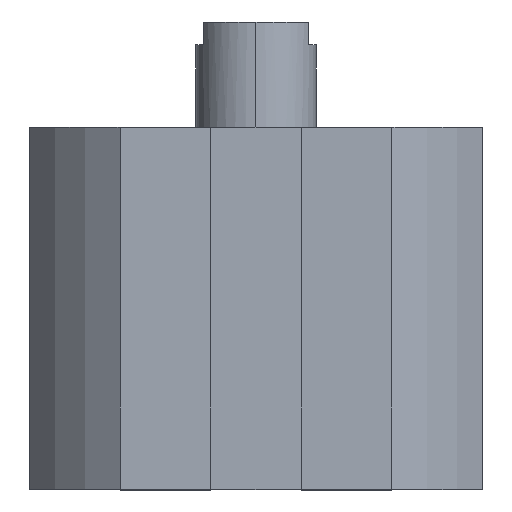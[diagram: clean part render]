
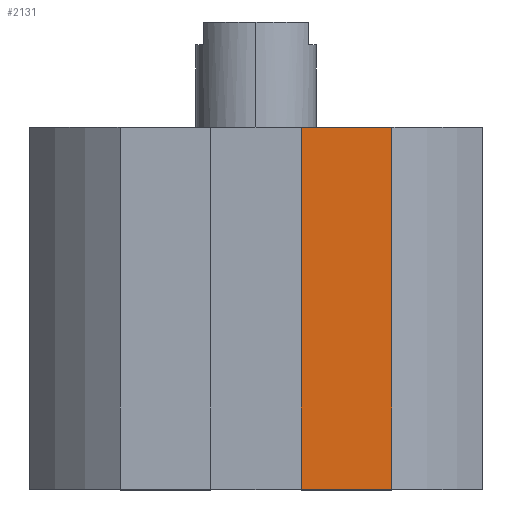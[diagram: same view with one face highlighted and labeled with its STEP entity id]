
A CAD part, top view. The second image highlights one B-rep face of the part: STEP entity #2131.
In plain terms, the highlighted planar face has unit normal (0, 0, 1).
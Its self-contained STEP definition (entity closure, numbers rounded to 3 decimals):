
#69 = FACE_OUTER_BOUND ( 'NONE', #1562, .T. ) ;
#94 = LINE ( 'NONE', #2686, #1351 ) ;
#142 = VERTEX_POINT ( 'NONE', #642 ) ;
#167 = VECTOR ( 'NONE', #1466, 1000. ) ;
#256 = LINE ( 'NONE', #2755, #167 ) ;
#383 = VECTOR ( 'NONE', #1581, 1000. ) ;
#444 = EDGE_CURVE ( 'NONE', #2402, #142, #675, .T. ) ;
#642 = CARTESIAN_POINT ( 'NONE',  ( 18.028, 0., 30. ) ) ;
#675 = LINE ( 'NONE', #2492, #3091 ) ;
#680 = DIRECTION ( 'NONE',  ( 1., 0., 0. ) ) ;
#696 = CARTESIAN_POINT ( 'NONE',  ( 18.028, -48., 30. ) ) ;
#1061 = CARTESIAN_POINT ( 'NONE',  ( 18.028, -48., 30. ) ) ;
#1128 = DIRECTION ( 'NONE',  ( 1., 0., 0. ) ) ;
#1142 = EDGE_CURVE ( 'NONE', #2058, #142, #3158, .T. ) ;
#1203 = ORIENTED_EDGE ( 'NONE', *, *, #1142, .T. ) ;
#1259 = ORIENTED_EDGE ( 'NONE', *, *, #444, .F. ) ;
#1274 = ORIENTED_EDGE ( 'NONE', *, *, #2638, .T. ) ;
#1351 = VECTOR ( 'NONE', #1128, 1000. ) ;
#1466 = DIRECTION ( 'NONE',  ( 0., 1., 0. ) ) ;
#1504 = CARTESIAN_POINT ( 'NONE',  ( 0., -48., 30. ) ) ;
#1562 = EDGE_LOOP ( 'NONE', ( #1259, #1840, #1274, #1203 ) ) ;
#1581 = DIRECTION ( 'NONE',  ( 0., 1., 0. ) ) ;
#1740 = DIRECTION ( 'NONE',  ( 1., 0., 0. ) ) ;
#1840 = ORIENTED_EDGE ( 'NONE', *, *, #3042, .F. ) ;
#1997 = PLANE ( 'NONE',  #2294 ) ;
#2058 = VERTEX_POINT ( 'NONE', #696 ) ;
#2131 = ADVANCED_FACE ( 'NONE', ( #69 ), #1997, .T. ) ;
#2294 = AXIS2_PLACEMENT_3D ( 'NONE', #1504, #3033, #1740 ) ;
#2402 = VERTEX_POINT ( 'NONE', #2997 ) ;
#2492 = CARTESIAN_POINT ( 'NONE',  ( 0., 0., 30. ) ) ;
#2638 = EDGE_CURVE ( 'NONE', #2979, #2058, #94, .T. ) ;
#2686 = CARTESIAN_POINT ( 'NONE',  ( 0., -48., 30. ) ) ;
#2755 = CARTESIAN_POINT ( 'NONE',  ( 6., -48., 30. ) ) ;
#2979 = VERTEX_POINT ( 'NONE', #3018 ) ;
#2997 = CARTESIAN_POINT ( 'NONE',  ( 6., 0., 30. ) ) ;
#3018 = CARTESIAN_POINT ( 'NONE',  ( 6., -48., 30. ) ) ;
#3033 = DIRECTION ( 'NONE',  ( 0., 0., 1. ) ) ;
#3042 = EDGE_CURVE ( 'NONE', #2979, #2402, #256, .T. ) ;
#3091 = VECTOR ( 'NONE', #680, 1000. ) ;
#3158 = LINE ( 'NONE', #1061, #383 ) ;
